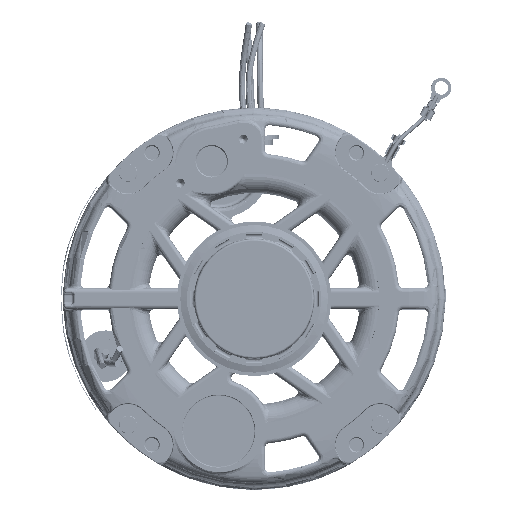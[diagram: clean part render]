
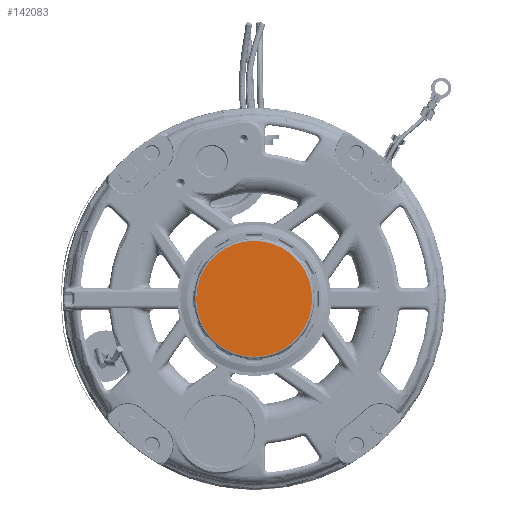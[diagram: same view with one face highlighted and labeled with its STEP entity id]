
A CAD part, left-side view. The second image highlights one B-rep face of the part: STEP entity #142083.
In plain terms, the highlighted planar face has unit normal (-1, 0, 0).
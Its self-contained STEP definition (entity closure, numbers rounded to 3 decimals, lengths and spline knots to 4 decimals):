
#18505 = DIRECTION ( 'NONE',  ( -1., 0., 0. ) ) ;
#28311 = DIRECTION ( 'NONE',  ( 0., 1., 0. ) ) ;
#37204 = AXIS2_PLACEMENT_3D ( 'NONE', #205176, #18505, #201897 ) ;
#42766 = CARTESIAN_POINT ( 'NONE',  ( -4.93, 0., 0. ) ) ;
#44950 = PLANE ( 'NONE',  #203834 ) ;
#50530 = ORIENTED_EDGE ( 'NONE', *, *, #216535, .T. ) ;
#50952 = VERTEX_POINT ( 'NONE', #88022 ) ;
#52282 = CARTESIAN_POINT ( 'NONE',  ( -4.93, 0., 0. ) ) ;
#61458 = VERTEX_POINT ( 'NONE', #100165 ) ;
#64764 = EDGE_CURVE ( 'NONE', #61458, #50952, #201670, .T. ) ;
#66796 = AXIS2_PLACEMENT_3D ( 'NONE', #52282, #184667, #153522 ) ;
#88022 = CARTESIAN_POINT ( 'NONE',  ( -4.93, -0.845, 0. ) ) ;
#98127 = ORIENTED_EDGE ( 'NONE', *, *, #64764, .T. ) ;
#100165 = CARTESIAN_POINT ( 'NONE',  ( -4.93, 0.845, 0. ) ) ;
#110537 = DIRECTION ( 'NONE',  ( 1., 0., 0. ) ) ;
#137278 = EDGE_LOOP ( 'NONE', ( #98127, #50530 ) ) ;
#142083 = ADVANCED_FACE ( 'NONE', ( #211694 ), #44950, .F. ) ;
#153522 = DIRECTION ( 'NONE',  ( 0., 1., 0. ) ) ;
#184667 = DIRECTION ( 'NONE',  ( -1., 0., 0. ) ) ;
#196935 = CIRCLE ( 'NONE', #37204, 0.845 ) ;
#201670 = CIRCLE ( 'NONE', #66796, 0.845 ) ;
#201897 = DIRECTION ( 'NONE',  ( 0., 1., 0. ) ) ;
#203834 = AXIS2_PLACEMENT_3D ( 'NONE', #42766, #110537, #28311 ) ;
#205176 = CARTESIAN_POINT ( 'NONE',  ( -4.93, 0., 0. ) ) ;
#211694 = FACE_OUTER_BOUND ( 'NONE', #137278, .T. ) ;
#216535 = EDGE_CURVE ( 'NONE', #50952, #61458, #196935, .T. ) ;
